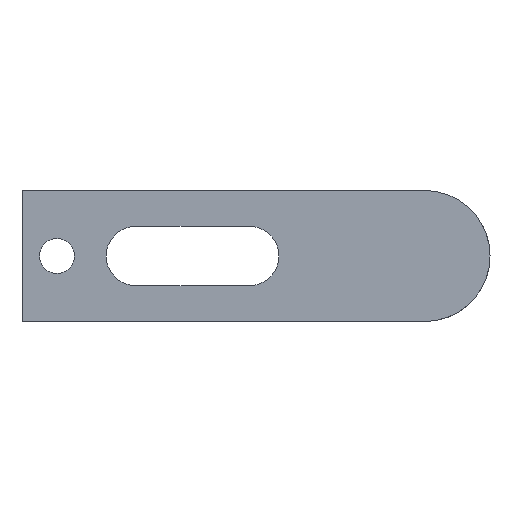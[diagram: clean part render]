
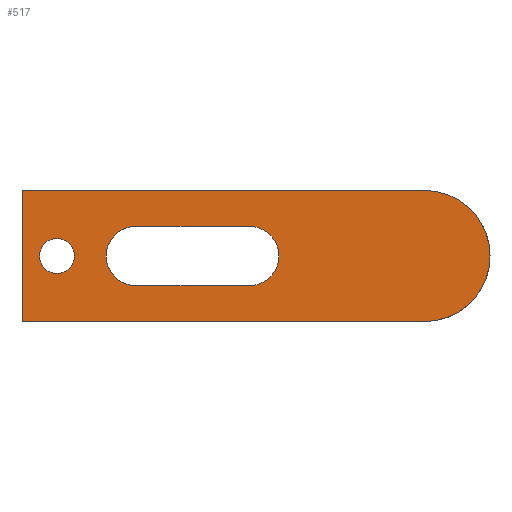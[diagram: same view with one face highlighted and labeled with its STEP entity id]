
A CAD part, front view. The second image highlights one B-rep face of the part: STEP entity #517.
In plain terms, the highlighted planar face has unit normal (0, -1, 0).
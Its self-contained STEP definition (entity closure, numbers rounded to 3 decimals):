
#290=CARTESIAN_POINT('Vertex',(-15.,0.,15.)) ;
#293=CARTESIAN_POINT('Axis2P3D Location',(-15.,0.,0.)) ;
#297=CARTESIAN_POINT('Vertex',(-15.,0.,-15.)) ;
#399=CARTESIAN_POINT('Line Origine',(-61.,0.,15.)) ;
#403=CARTESIAN_POINT('Vertex',(-107.,0.,15.)) ;
#426=CARTESIAN_POINT('Axis2P3D Location',(-107.,0.,15.)) ;
#431=CARTESIAN_POINT('Line Origine',(-61.,0.,-15.)) ;
#435=CARTESIAN_POINT('Vertex',(-107.,0.,-15.)) ;
#438=CARTESIAN_POINT('Line Origine',(-107.,0.,0.)) ;
#449=CARTESIAN_POINT('Axis2P3D Location',(-99.,0.,0.)) ;
#453=CARTESIAN_POINT('Vertex',(-95.,0.,0.)) ;
#455=CARTESIAN_POINT('Vertex',(-99.,0.,-4.)) ;
#458=CARTESIAN_POINT('Axis2P3D Location',(-99.,0.,0.)) ;
#462=CARTESIAN_POINT('Vertex',(-103.,0.,0.)) ;
#465=CARTESIAN_POINT('Axis2P3D Location',(-99.,0.,0.)) ;
#469=CARTESIAN_POINT('Vertex',(-99.,0.,4.)) ;
#472=CARTESIAN_POINT('Axis2P3D Location',(-99.,0.,0.)) ;
#483=CARTESIAN_POINT('Line Origine',(-68.,0.,-6.75)) ;
#487=CARTESIAN_POINT('Vertex',(-55.,0.,-6.75)) ;
#489=CARTESIAN_POINT('Vertex',(-81.,0.,-6.75)) ;
#492=CARTESIAN_POINT('Axis2P3D Location',(-81.,0.,0.)) ;
#496=CARTESIAN_POINT('Vertex',(-81.,0.,6.75)) ;
#499=CARTESIAN_POINT('Line Origine',(-68.,0.,6.75)) ;
#503=CARTESIAN_POINT('Vertex',(-55.,0.,6.75)) ;
#506=CARTESIAN_POINT('Axis2P3D Location',(-55.,0.,0.)) ;
#294=DIRECTION('Axis2P3D Direction',(0.,1.,0.)) ;
#400=DIRECTION('Vector Direction',(1.,0.,0.)) ;
#427=DIRECTION('Axis2P3D Direction',(0.,1.,0.)) ;
#428=DIRECTION('Axis2P3D XDirection',(0.,-0.,1.)) ;
#432=DIRECTION('Vector Direction',(1.,0.,0.)) ;
#439=DIRECTION('Vector Direction',(0.,0.,-1.)) ;
#450=DIRECTION('Axis2P3D Direction',(0.,1.,0.)) ;
#459=DIRECTION('Axis2P3D Direction',(0.,1.,0.)) ;
#466=DIRECTION('Axis2P3D Direction',(0.,1.,0.)) ;
#473=DIRECTION('Axis2P3D Direction',(0.,1.,0.)) ;
#484=DIRECTION('Vector Direction',(-1.,0.,0.)) ;
#493=DIRECTION('Axis2P3D Direction',(0.,1.,0.)) ;
#500=DIRECTION('Vector Direction',(1.,0.,0.)) ;
#507=DIRECTION('Axis2P3D Direction',(0.,1.,0.)) ;
#295=AXIS2_PLACEMENT_3D('Circle Axis2P3D',#293,#294,$) ;
#429=AXIS2_PLACEMENT_3D('Plane Axis2P3D',#426,#427,#428) ;
#451=AXIS2_PLACEMENT_3D('Circle Axis2P3D',#449,#450,$) ;
#460=AXIS2_PLACEMENT_3D('Circle Axis2P3D',#458,#459,$) ;
#467=AXIS2_PLACEMENT_3D('Circle Axis2P3D',#465,#466,$) ;
#474=AXIS2_PLACEMENT_3D('Circle Axis2P3D',#472,#473,$) ;
#494=AXIS2_PLACEMENT_3D('Circle Axis2P3D',#492,#493,$) ;
#508=AXIS2_PLACEMENT_3D('Circle Axis2P3D',#506,#507,$) ;
#444=ORIENTED_EDGE('',*,*,#437,.T.) ;
#445=ORIENTED_EDGE('',*,*,#299,.F.) ;
#446=ORIENTED_EDGE('',*,*,#405,.F.) ;
#447=ORIENTED_EDGE('',*,*,#442,.T.) ;
#478=ORIENTED_EDGE('',*,*,#457,.T.) ;
#479=ORIENTED_EDGE('',*,*,#464,.T.) ;
#480=ORIENTED_EDGE('',*,*,#471,.T.) ;
#481=ORIENTED_EDGE('',*,*,#476,.T.) ;
#512=ORIENTED_EDGE('',*,*,#491,.T.) ;
#513=ORIENTED_EDGE('',*,*,#498,.T.) ;
#514=ORIENTED_EDGE('',*,*,#505,.T.) ;
#515=ORIENTED_EDGE('',*,*,#510,.T.) ;
#482=FACE_BOUND('',#477,.T.) ;
#516=FACE_BOUND('',#511,.T.) ;
#401=VECTOR('Line Direction',#400,1.) ;
#433=VECTOR('Line Direction',#432,1.) ;
#440=VECTOR('Line Direction',#439,1.) ;
#485=VECTOR('Line Direction',#484,1.) ;
#501=VECTOR('Line Direction',#500,1.) ;
#517=ADVANCED_FACE('702-7',(#448,#482,#516),#430,.F.) ;
#296=CIRCLE('generated circle',#295,15.) ;
#452=CIRCLE('generated circle',#451,4.) ;
#461=CIRCLE('generated circle',#460,4.) ;
#468=CIRCLE('generated circle',#467,4.) ;
#475=CIRCLE('generated circle',#474,4.) ;
#495=CIRCLE('generated circle',#494,6.75) ;
#509=CIRCLE('generated circle',#508,6.75) ;
#299=EDGE_CURVE('',#291,#298,#296,.T.) ;
#405=EDGE_CURVE('',#404,#291,#402,.T.) ;
#437=EDGE_CURVE('',#436,#298,#434,.T.) ;
#442=EDGE_CURVE('',#404,#436,#441,.T.) ;
#457=EDGE_CURVE('',#454,#456,#452,.T.) ;
#464=EDGE_CURVE('',#456,#463,#461,.T.) ;
#471=EDGE_CURVE('',#463,#470,#468,.T.) ;
#476=EDGE_CURVE('',#470,#454,#475,.T.) ;
#491=EDGE_CURVE('',#488,#490,#486,.T.) ;
#498=EDGE_CURVE('',#490,#497,#495,.T.) ;
#505=EDGE_CURVE('',#497,#504,#502,.T.) ;
#510=EDGE_CURVE('',#504,#488,#509,.T.) ;
#443=EDGE_LOOP('',(#444,#445,#446,#447)) ;
#477=EDGE_LOOP('',(#478,#479,#480,#481)) ;
#511=EDGE_LOOP('',(#512,#513,#514,#515)) ;
#448=FACE_OUTER_BOUND('',#443,.T.) ;
#402=LINE('Line',#399,#401) ;
#434=LINE('Line',#431,#433) ;
#441=LINE('Line',#438,#440) ;
#486=LINE('Line',#483,#485) ;
#502=LINE('Line',#499,#501) ;
#430=PLANE('Plane',#429) ;
#291=VERTEX_POINT('',#290) ;
#298=VERTEX_POINT('',#297) ;
#404=VERTEX_POINT('',#403) ;
#436=VERTEX_POINT('',#435) ;
#454=VERTEX_POINT('',#453) ;
#456=VERTEX_POINT('',#455) ;
#463=VERTEX_POINT('',#462) ;
#470=VERTEX_POINT('',#469) ;
#488=VERTEX_POINT('',#487) ;
#490=VERTEX_POINT('',#489) ;
#497=VERTEX_POINT('',#496) ;
#504=VERTEX_POINT('',#503) ;
